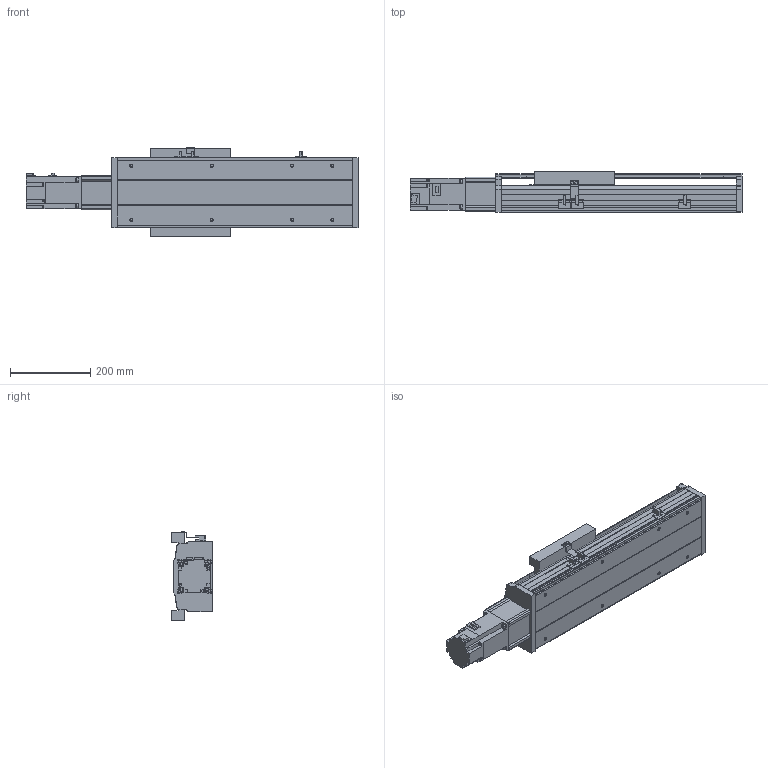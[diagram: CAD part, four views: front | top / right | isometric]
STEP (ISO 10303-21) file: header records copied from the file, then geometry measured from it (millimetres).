
FILE_DESCRIPTION( ( 'STEP AP214' ), '1' );
FILE_NAME( 'x:/temp/worker_27/temp/exporttempdir_6708_403_gaSe0/format_0/PSS200-L10-S250-BC-T75-C1-N(0).stp', '2022-06-06T02:33:46', ( 'License CC BY-ND 4.0' ), ( 'CADENAS' ), ' ', 'PARTsolutions', ' ' );
FILE_SCHEMA( ( 'AUTOMOTIVE_DESIGN { 1 0 10303 214 1 1 1 1 }' ) );
Length unit declared in the file: millimetre
Products named in the file (8): PSS200-L10-S250-BC-T75-C1-N(0); _PSS200-S250-BC-C1-N_body; _PSS200-N_Q; _PSS200-BC-C1-N_sl; _PSS200-N_sensor; _PSS200BC-N_h; _T75-p1; _PSS200-S250-BC-N_S
Assembly tree (9 placements, depth 2):
  PSS200-L10-S250-BC-T75-C1-N(0)
    _PSS200-S250-BC-C1-N_body
    _PSS200-N_Q
    _PSS200-BC-C1-N_sl
    _PSS200-N_sensor  x3
    _PSS200BC-N_h
    _T75-p1
    _PSS200-S250-BC-N_S
Bounding box: 826.3 x 101.5 x 223.86 mm (x, y, z)
Volume: 5257546.8 mm3; surface area: 1173372.5 mm2
Topology: 9 solids, 9 shells, 569 faces, 1519 edges, 1008 vertices
Faces by surface type: plane 439, cylinder 114, cone 16
Full cylindrical faces by diameter (mm): 4 x2, 4.5 x4, 6 x11, 6.647 x12, 8 x8, 10 x6, 25 x1, 67 x1, 70 x1
Entity records: 19951 total; most frequent: CARTESIAN_POINT 2792, ORIENTED_EDGE 2606, DIRECTION 2601, EDGE_CURVE 1303, LINE 1051, VECTOR 1051, VERTEX_POINT 902, AXIS2_PLACEMENT_3D 775
